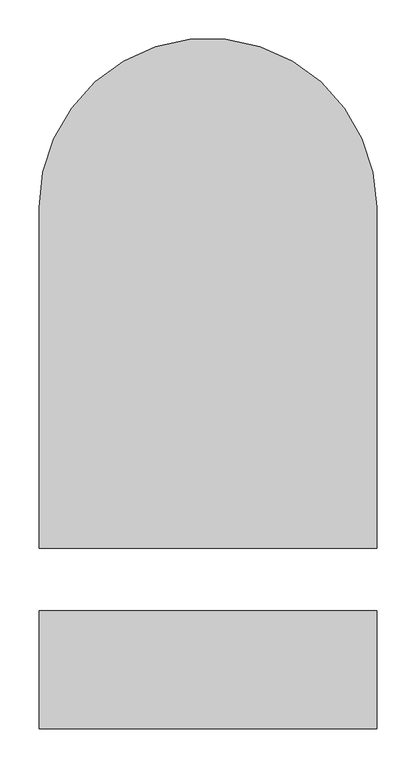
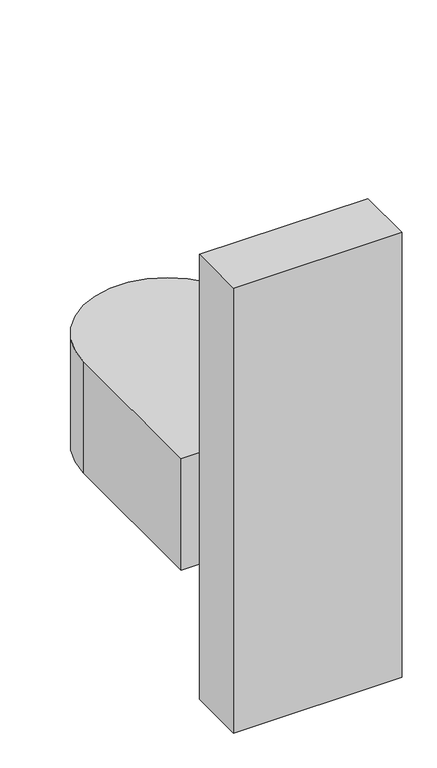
"""IFC4 building model written with IfcOpenShell, lengths in millimetres: flow terminal geometry, SP_унитаз подвесной : SP_унитаз подвесной."""

from ifc_helpers import new_model, si_unit, point, frame, frame_2d, origin, origin_with_axes, place, context, project, spatial, polyline, circle_curve, trimmed, segment, composite_curve, outline, extrude, source, transform, mapped, element, save


def flow_terminal_b259daf1(model_context):
    return source(origin(), model_context, "Body", "SweptSolid", [
        extrude(outline(composite_curve([segment(polyline([(215.0, 433.7931803), (215.0, 0.0), (-215.0, 0.0), (-215.0, 433.7931803)]), True, "CONTINUOUS"), segment(trimmed(circle_curve(frame_2d((0.0, 433.7931803)), 215.0), [point((-215.0, 433.7931803))], [point((215.0, 433.7931803))], False, "CARTESIAN"), True, "CONTINUOUS")], self_intersect=False)), frame((0.0, 0.0, 300.0), z_axis=(0.0, 0.0, 1.0), x_axis=(1.0, 0.0, 0.0)), (0.0, 0.0, 1.0), 300.0),
        extrude(outline(polyline([(215.0, -80.0), (215.0, -230.0), (-215.0, -230.0), (-215.0, -80.0), (215.0, -80.0)])), origin_with_axes(), (0.0, 0.0, 1.0), 1200.0),
    ])


if __name__ == "__main__":
    model = new_model("IFC4")
    model_context = context("Model", 3, world=origin())
    ifc_project = project(units=[si_unit("LENGTHUNIT", "METRE", prefix="MILLI")], contexts=[model_context])
    site = spatial("IfcSite", under=ifc_project)
    building = spatial("IfcBuilding", under=site)
    placement = place(None, origin())
    flow_terminal_shape = flow_terminal_b259daf1(model_context)
    element("IfcFlowTerminal", 1, ObjectType="SP_унитаз подвесной : SP_унитаз подвесной", at=placement, inside=building, context=model_context, shape_type="MappedRepresentation", body=[
        mapped(flow_terminal_shape, transform((0.0, 0.0, 0.0), x_axis=(1.0, 0.0, 0.0), y_axis=(0.0, 1.0, 0.0), z_axis=(0.0, 0.0, 1.0))),
    ])
    save(model, "model.ifc")
